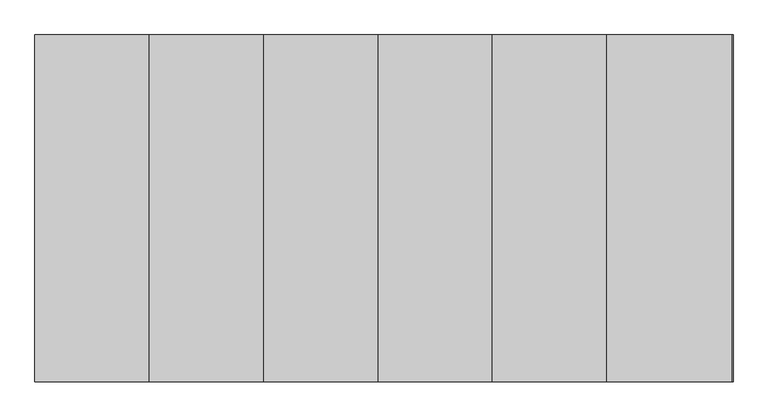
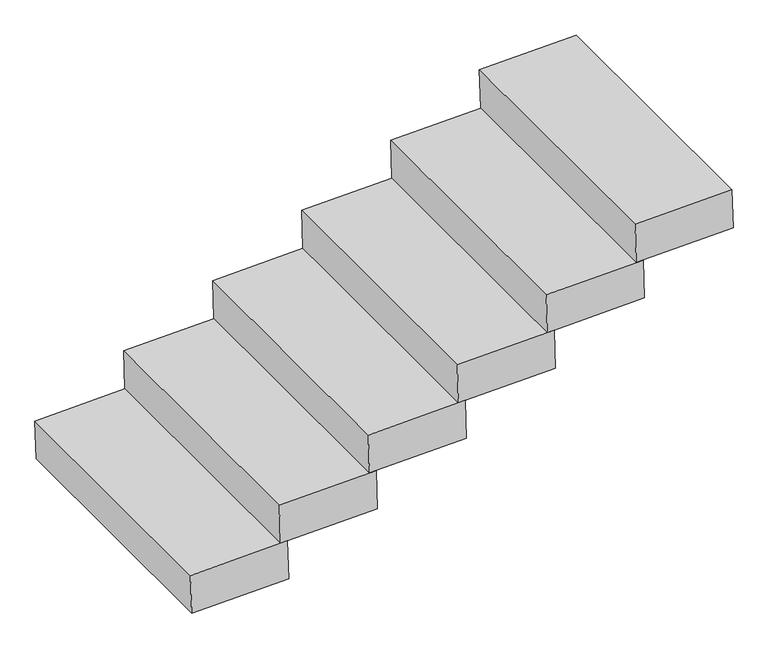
"""IFC4 building model written with IfcOpenShell, lengths in millimetres: stair flight geometry, Blockstufe - vollkantig - B 36cm, H 15cm."""

from ifc_helpers import new_model, si_unit, frame, origin, place, context, project, spatial, polyline, outline, extrude, source, transform, mapped, element, save


def stair_flight_71055052(model_context):
    return source(origin(), model_context, "Body", "SweptSolid", [
        extrude(outline(polyline([(0.0, -360.0000001), (0.0, 0.0), (1000.0, 0.0), (1000.0, -360.0000001), (0.0, -360.0000001)])), frame((46958.3257386, -14549.2964448, 0.0), z_axis=(-0.02792163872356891, 0.0, 0.9996101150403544), x_axis=(0.0, 1.0, 0.0)), (0.0, 0.0, 1.0), 150.0),
        extrude(outline(polyline([(0.0, -360.0000001), (0.0, 0.0), (1000.0, 0.0), (1000.0, -360.0000001), (0.0, -360.0000001)])), frame((47288.3257386, -14549.2964448, 160.0), z_axis=(-0.02792163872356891, 0.0, 0.9996101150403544), x_axis=(0.0, 1.0, 0.0)), (0.0, 0.0, 1.0), 150.0),
        extrude(outline(polyline([(0.0, -360.0000001), (0.0, 0.0), (1000.0, 0.0), (1000.0, -360.0000001), (0.0, -360.0000001)])), frame((47618.3257386, -14549.2964448, 320.0), z_axis=(-0.02792163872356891, 0.0, 0.9996101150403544), x_axis=(0.0, 1.0, 0.0)), (0.0, 0.0, 1.0), 150.0),
        extrude(outline(polyline([(0.0, -360.0000001), (0.0, 0.0), (1000.0, 0.0), (1000.0, -360.0000001), (0.0, -360.0000001)])), frame((47948.3257386, -14549.2964448, 480.0), z_axis=(-0.02792163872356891, 0.0, 0.9996101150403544), x_axis=(0.0, 1.0, 0.0)), (0.0, 0.0, 1.0), 150.0),
        extrude(outline(polyline([(0.0, -360.0000001), (0.0, 0.0), (1000.0, 0.0), (1000.0, -360.0000001), (0.0, -360.0000001)])), frame((48278.3257386, -14549.2964448, 640.0), z_axis=(-0.02792163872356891, 0.0, 0.9996101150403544), x_axis=(0.0, 1.0, 0.0)), (0.0, 0.0, 1.0), 150.0),
        extrude(outline(polyline([(0.0, -360.0000001), (0.0, 0.0), (1000.0, 0.0), (1000.0, -360.0000001), (0.0, -360.0000001)])), frame((48608.3257386, -14549.2964448, 800.0), z_axis=(-0.02792163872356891, 0.0, 0.9996101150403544), x_axis=(0.0, 1.0, 0.0)), (0.0, 0.0, 1.0), 150.0),
    ])


if __name__ == "__main__":
    model = new_model("IFC4")
    model_context = context("Model", 3, world=origin())
    ifc_project = project(units=[si_unit("LENGTHUNIT", "METRE", prefix="MILLI")], contexts=[model_context])
    site = spatial("IfcSite", under=ifc_project)
    building = spatial("IfcBuilding", under=site)
    placement = place(None, origin())
    stair_flight_shape = stair_flight_71055052(model_context)
    element("IfcStairFlight", 1, ObjectType="Blockstufe - vollkantig - B 36cm, H 15cm", at=placement, inside=building, context=model_context, shape_type="MappedRepresentation", body=[
        mapped(stair_flight_shape, transform((0.0, 0.0, 0.0), x_axis=(1.0, 0.0, 0.0), y_axis=(0.0, 1.0, 0.0), z_axis=(0.0, 0.0, 1.0))),
    ])
    save(model, "model.ifc")
